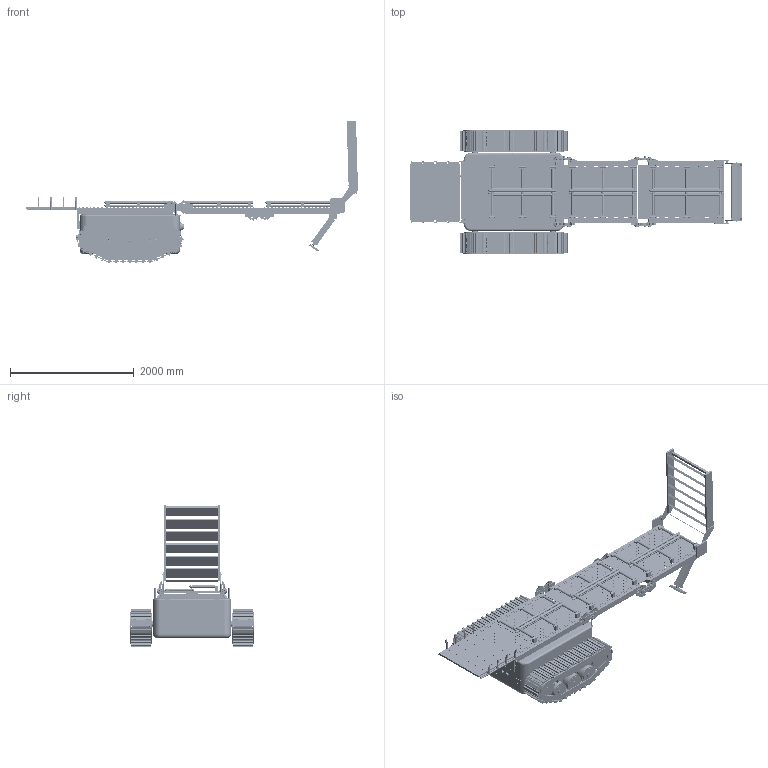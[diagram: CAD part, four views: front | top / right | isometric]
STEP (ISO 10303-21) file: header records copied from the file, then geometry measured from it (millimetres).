
FILE_DESCRIPTION(('Open CASCADE Model'),'2;1');
FILE_NAME('Open CASCADE Shape Model','2026-11-24T20:14:48',('Author'),( 'Open CASCADE'),'Open CASCADE STEP processor 7.9','Open CASCADE 7.9' ,'Unknown');
FILE_SCHEMA(('AUTOMOTIVE_DESIGN { 1 0 10303 214 1 1 1 1 }'));
Length unit declared in the file: centimetre
Products named in the file (676): AKORA_C14b_CLOSING_STAGE_02; 01_MAIN_BODY; BODY_LOWER; BODY_LOWER_TUB; BODY_JOINT_FLANGE_INNER; BODY_UPPER; BODY_UPPER_TUB; BODY_JOINT_BEAD; COVER_GASKET; COVER_GASKET_EPDM_10x8; PEDESTAL_GROMMET_600_L; PEDESTAL_GROMMET_600_R; PEDESTAL_GROMMET_1380_L; PEDESTAL_GROMMET_1380_R; SERVICE_PANEL_REAR_GASKET; COVER_INTERLOCK; COVER_SEAT_RING_FEMALE; COVER_LOCKS; COVER_QUARTER_TURN_STUD_01; COVER_RECEPTACLE_01; COVER_QUARTER_TURN_STUD_02; COVER_RECEPTACLE_02; COVER_QUARTER_TURN_STUD_03; COVER_RECEPTACLE_03; COVER_QUARTER_TURN_STUD_04; COVER_RECEPTACLE_04; COVER_QUARTER_TURN_STUD_05; COVER_RECEPTACLE_05; COVER_QUARTER_TURN_STUD_06; COVER_RECEPTACLE_06; COVER_QUARTER_TURN_STUD_07; COVER_RECEPTACLE_07; COVER_QUARTER_TURN_STUD_08; COVER_RECEPTACLE_08; COVER_QUARTER_TURN_STUD_09; COVER_RECEPTACLE_09; COVER_QUARTER_TURN_STUD_10; COVER_RECEPTACLE_10; INTERNAL_FRAME; FRAME_RAIL_L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
Assembly tree (743 placements, depth 5):
  AKORA_C14b_CLOSING_STAGE_02
    01_MAIN_BODY
      BODY_LOWER
        BODY_LOWER_TUB
        BODY_JOINT_FLANGE_INNER
      BODY_UPPER
        BODY_UPPER_TUB
        BODY_JOINT_BEAD
      COVER_GASKET
        COVER_GASKET_EPDM_10x8
        PEDESTAL_GROMMET_600_L
        PEDESTAL_GROMMET_600_R
        PEDESTAL_GROMMET_1380_L
        PEDESTAL_GROMMET_1380_R
        SERVICE_PANEL_REAR_GASKET
      COVER_INTERLOCK
        COVER_SEAT_RING_FEMALE
      COVER_LOCKS
        COVER_QUARTER_TURN_STUD_01
        COVER_RECEPTACLE_01
        COVER_QUARTER_TURN_STUD_02
        COVER_RECEPTACLE_02
        COVER_QUARTER_TURN_STUD_03
        COVER_RECEPTACLE_03
        COVER_QUARTER_TURN_STUD_04
        COVER_RECEPTACLE_04
        COVER_QUARTER_TURN_STUD_05
        COVER_RECEPTACLE_05
        COVER_QUARTER_TURN_STUD_06
        COVER_RECEPTACLE_06
        COVER_QUARTER_TURN_STUD_07
        COVER_RECEPTACLE_07
        COVER_QUARTER_TURN_STUD_08
        COVER_RECEPTACLE_08
        COVER_QUARTER_TURN_STUD_09
        COVER_RECEPTACLE_09
        COVER_QUARTER_TURN_STUD_10
        COVER_RECEPTACLE_10
      INTERNAL_FRAME
        FRAME_RAIL_L
        FRAME_RAIL_R
        FRAME_CROSS_1
        FRAME_CROSS_2
        FRAME_CROSS_3
        FRAME_CROSS_4
        FRAME_CROSS_5
        TRACK_MOTOR_PLATE_L
        TRACK_MOTOR_PLATE_R
      MOUNTING_BRACKETS
        FRAME_WALL_BRACKET_L_400
        FRAME_WALL_BRACKET_L_1300
        FRAME_WALL_BRACKET_R_400
        FRAME_WALL_BRACKET_R_1300
        P1_PEDESTAL_600_L
        P1_PEDESTAL_600_R
        P1_PEDESTAL_1380_L
        P1_PEDESTAL_1380_R
        REAR_LANDING_BRACKET_L
        REAR_LANDING_BRACKET_R
      SERVICE_PANELS
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Bounding box: 5368.41 x 1994 x 2307.59 mm (x, y, z)
Volume: 628183892.7 mm3; surface area: 87864523.7 mm2
Topology: 1494 solids, 1498 shells, 16526 faces, 39817 edges, 26536 vertices
Faces by surface type: plane 14101, cylinder 2385, sphere 22, torus 16, revolution 2
Full cylindrical faces by diameter (mm): 8 x18, 9 x20, 9.2 x10, 10 x150, 10.5 x4, 12 x34, 13 x4, 14 x4, 16 x36, 17 x8, 18 x4, 20 x15, 22 x12, 24 x39, 25 x16, 28 x34, 30 x64, 30.6 x40, 32 x22, 34 x36, 36 x4, 37 x54, 40 x96, 41 x8, 42 x54, 44 x11, 48 x24, 56 x2, 60 x5, 62 x4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
Entity records: 931551 total; most frequent: CARTESIAN_POINT 190398, DIRECTION 134825, LINE 95116, VECTOR 95116, ORIENTED_EDGE 69780, PCURVE 69764, DEFINITIONAL_REPRESENTATION 69764, EDGE_CURVE 34882
